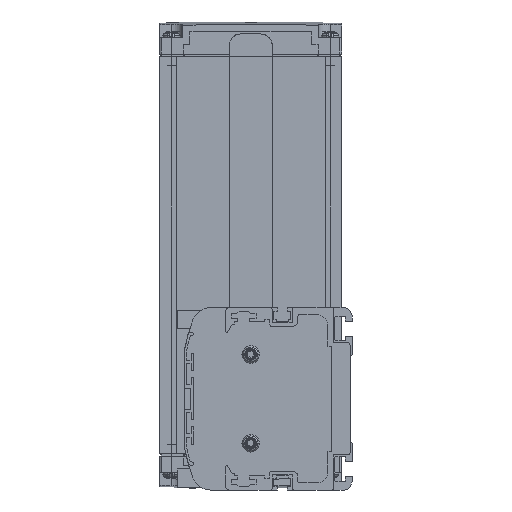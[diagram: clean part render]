
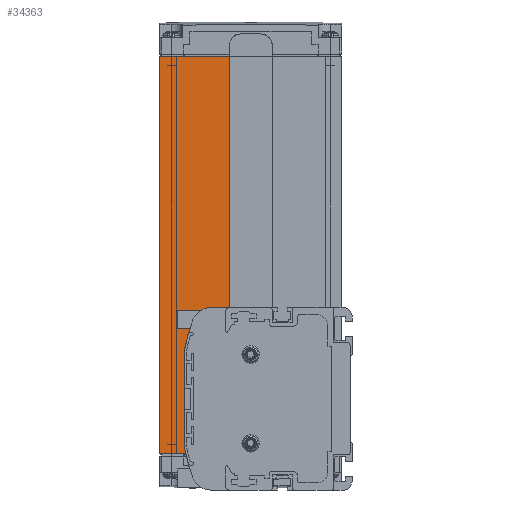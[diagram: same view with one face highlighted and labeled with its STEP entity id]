
A CAD part, left-side view. The second image highlights one B-rep face of the part: STEP entity #34363.
In plain terms, the highlighted planar face has unit normal (-1, 0, 0).
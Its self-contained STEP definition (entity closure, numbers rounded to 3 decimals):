
#8974=DIRECTION('',(0.,-1.,0.));
#8975=VECTOR('',#8974,11.203);
#8976=CARTESIAN_POINT('',(3.,82.5,-23.5));
#8977=LINE('',#8976,#8975);
#8978=DIRECTION('',(0.,0.,-1.));
#8979=VECTOR('',#8978,170.);
#8980=CARTESIAN_POINT('',(3.,82.5,146.5));
#8981=LINE('',#8980,#8979);
#8982=DIRECTION('',(0.,1.,0.));
#8983=VECTOR('',#8982,29.9);
#8984=CARTESIAN_POINT('',(3.,52.6,146.5));
#8985=LINE('',#8984,#8983);
#8986=DIRECTION('',(0.,-1.,0.));
#8987=VECTOR('',#8986,8.155);
#8988=CARTESIAN_POINT('',(3.,60.755,39.));
#8989=LINE('',#8988,#8987);
#11989=CARTESIAN_POINT('',(3.,-6.765,-6.));
#11990=DIRECTION('',(1.,0.,0.));
#11991=DIRECTION('',(0.,0.976,-0.219));
#11992=AXIS2_PLACEMENT_3D('',#11989,#11990,#11991);
#11998=CARTESIAN_POINT('',(3.,70.,-19.823));
#11999=DIRECTION('',(-1.,0.,0.));
#12000=DIRECTION('',(0.,1.,0.));
#12001=AXIS2_PLACEMENT_3D('',#11998,#11999,#12000);
#12011=DIRECTION('',(0.,0.,1.));
#12012=VECTOR('',#12011,39.645);
#12013=CARTESIAN_POINT('',(3.,72.,-19.823));
#12014=LINE('',#12013,#12012);
#12019=CARTESIAN_POINT('',(3.,70.,19.823));
#12020=DIRECTION('',(1.,0.,0.));
#12021=DIRECTION('',(0.,1.,0.));
#12022=AXIS2_PLACEMENT_3D('',#12019,#12020,#12021);
#12028=CARTESIAN_POINT('',(3.,-6.765,6.));
#12029=DIRECTION('',(1.,0.,0.));
#12030=DIRECTION('',(0.,0.984,0.177));
#12031=AXIS2_PLACEMENT_3D('',#12028,#12029,#12030);
#12033=CARTESIAN_POINT('',(3.,-6.765,6.));
#12034=DIRECTION('',(1.,0.,0.));
#12035=DIRECTION('',(0.,0.963,0.269));
#12036=AXIS2_PLACEMENT_3D('',#12033,#12034,#12035);
#12042=CARTESIAN_POINT('',(3.,60.755,31.));
#12043=DIRECTION('',(-1.,0.,0.));
#12044=DIRECTION('',(0.,0.,1.));
#12045=AXIS2_PLACEMENT_3D('',#12042,#12043,#12044);
#12436=DIRECTION('',(0.,-1.,0.));
#12437=VECTOR('',#12436,0.209);
#12438=CARTESIAN_POINT('',(3.,70.5,27.5));
#12439=LINE('',#12438,#12437);
#12460=DIRECTION('',(0.,0.,1.));
#12461=VECTOR('',#12460,0.762);
#12462=CARTESIAN_POINT('',(3.,70.5,26.738));
#12463=LINE('',#12462,#12461);
#12468=DIRECTION('',(0.,0.,1.));
#12469=VECTOR('',#12468,107.5);
#12470=CARTESIAN_POINT('',(3.,52.6,39.));
#12471=LINE('',#12470,#12469);
#17994=CARTESIAN_POINT('',(3.,82.5,-23.5));
#17996=VERTEX_POINT('',#17994);
#18091=CARTESIAN_POINT('',(3.,52.6,146.5));
#18092=VERTEX_POINT('',#18091);
#18093=CARTESIAN_POINT('',(3.,82.5,146.5));
#18094=VERTEX_POINT('',#18093);
#18127=CARTESIAN_POINT('',(3.,70.5,27.5));
#18128=VERTEX_POINT('',#18127);
#22238=CARTESIAN_POINT('',(3.,60.755,39.));
#22239=CARTESIAN_POINT('',(3.,52.6,39.));
#22240=VERTEX_POINT('',#22238);
#22241=VERTEX_POINT('',#22239);
#22242=CARTESIAN_POINT('',(3.,71.297,-23.5));
#22244=VERTEX_POINT('',#22242);
#22254=CARTESIAN_POINT('',(3.,70.5,26.738));
#22255=VERTEX_POINT('',#22254);
#22259=CARTESIAN_POINT('',(3.,70.291,27.5));
#22261=VERTEX_POINT('',#22259);
#22268=CARTESIAN_POINT('',(3.,72.,19.823));
#22269=CARTESIAN_POINT('',(3.,71.968,20.177));
#22270=VERTEX_POINT('',#22268);
#22271=VERTEX_POINT('',#22269);
#22272=CARTESIAN_POINT('',(3.,68.257,33.778));
#22273=VERTEX_POINT('',#22272);
#22286=CARTESIAN_POINT('',(3.,71.968,-20.177));
#22287=VERTEX_POINT('',#22286);
#22288=CARTESIAN_POINT('',(3.,72.,-19.823));
#22289=VERTEX_POINT('',#22288);
#34331=CARTESIAN_POINT('',(3.,67.55,61.5));
#34332=DIRECTION('',(1.,0.,0.));
#34333=DIRECTION('',(0.,-1.,0.));
#34334=AXIS2_PLACEMENT_3D('',#34331,#34332,#34333);
#34335=PLANE('',#34334);
#34337=ORIENTED_EDGE('',*,*,#34336,.F.);
#34339=ORIENTED_EDGE('',*,*,#34338,.T.);
#34341=ORIENTED_EDGE('',*,*,#34340,.F.);
#34343=ORIENTED_EDGE('',*,*,#34342,.F.);
#34345=ORIENTED_EDGE('',*,*,#34344,.F.);
#34347=ORIENTED_EDGE('',*,*,#34346,.F.);
#34349=ORIENTED_EDGE('',*,*,#34348,.F.);
#34351=ORIENTED_EDGE('',*,*,#34350,.F.);
#34353=ORIENTED_EDGE('',*,*,#34352,.T.);
#34355=ORIENTED_EDGE('',*,*,#34354,.F.);
#34356=ORIENTED_EDGE('',*,*,#28770,.F.);
#34357=ORIENTED_EDGE('',*,*,#34319,.F.);
#34358=ORIENTED_EDGE('',*,*,#22723,.F.);
#34360=ORIENTED_EDGE('',*,*,#34359,.F.);
#34361=EDGE_LOOP('',(#34337,#34339,#34341,#34343,#34345,#34347,#34349,#34351,
#34353,#34355,#34356,#34357,#34358,#34360));
#34362=FACE_OUTER_BOUND('',#34361,.F.);
#34363=ADVANCED_FACE('',(#34362),#34335,.F.);
#11993=CIRCLE('',#11992,80.);
#12002=CIRCLE('',#12001,2.);
#12023=CIRCLE('',#12022,2.);
#12032=CIRCLE('',#12031,80.);
#12037=CIRCLE('',#12036,80.);
#12046=CIRCLE('',#12045,8.);
#22723=EDGE_CURVE('',#18092,#18094,#8985,.T.);
#28770=EDGE_CURVE('',#17996,#22244,#8977,.T.);
#34319=EDGE_CURVE('',#18094,#17996,#8981,.T.);
#34336=EDGE_CURVE('',#22240,#22241,#8989,.T.);
#34338=EDGE_CURVE('',#22240,#22273,#12046,.T.);
#34340=EDGE_CURVE('',#22261,#22273,#12037,.T.);
#34342=EDGE_CURVE('',#18128,#22261,#12439,.T.);
#34344=EDGE_CURVE('',#22255,#18128,#12463,.T.);
#34346=EDGE_CURVE('',#22271,#22255,#12032,.T.);
#34348=EDGE_CURVE('',#22270,#22271,#12023,.T.);
#34350=EDGE_CURVE('',#22289,#22270,#12014,.T.);
#34352=EDGE_CURVE('',#22289,#22287,#12002,.T.);
#34354=EDGE_CURVE('',#22244,#22287,#11993,.T.);
#34359=EDGE_CURVE('',#22241,#18092,#12471,.T.);
